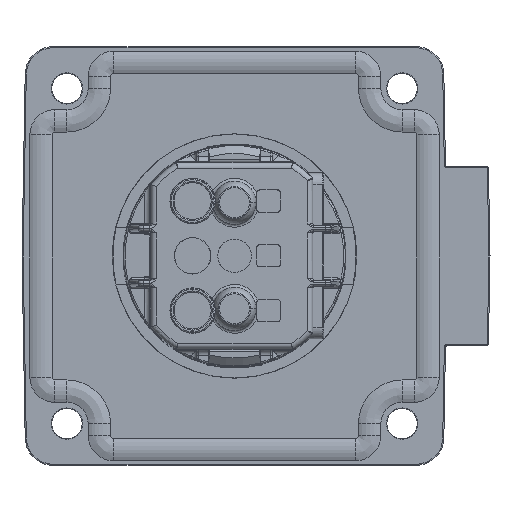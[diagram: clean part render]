
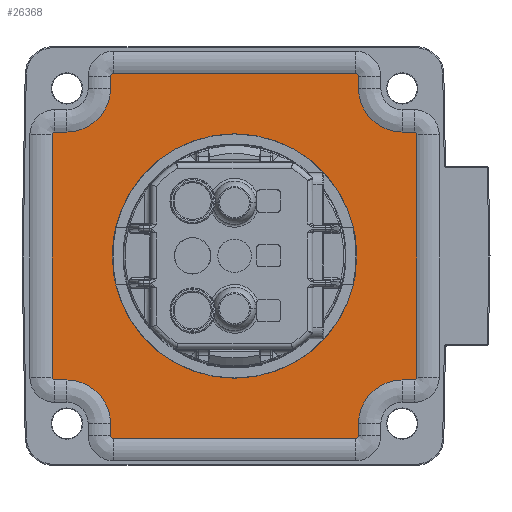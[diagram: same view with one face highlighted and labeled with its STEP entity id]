
A CAD part, top view. The second image highlights one B-rep face of the part: STEP entity #26368.
In plain terms, the highlighted planar face has unit normal (0, 0, 1).
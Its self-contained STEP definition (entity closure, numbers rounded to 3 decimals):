
#7533=DIRECTION('',(0.,1.,0.));
#7534=VECTOR('',#7533,43.4);
#7535=CARTESIAN_POINT('',(32.65,-21.7,0.95));
#7536=LINE('4611',#7535,#7534);
#7540=CARTESIAN_POINT('',(32.15,-21.7,0.95));
#7541=DIRECTION('',(0.,0.,1.));
#7542=DIRECTION('',(0.,-1.,0.));
#7543=AXIS2_PLACEMENT_3D('',#7540,#7541,#7542);
#7548=DIRECTION('',(1.,0.,0.));
#7549=VECTOR('',#7548,2.15);
#7550=CARTESIAN_POINT('',(30.,-22.2,0.95));
#7551=LINE('4644',#7550,#7549);
#7555=CARTESIAN_POINT('',(30.,-30.,0.95));
#7556=DIRECTION('',(0.,0.,-1.));
#7557=DIRECTION('',(-1.,0.,0.));
#7558=AXIS2_PLACEMENT_3D('',#7555,#7556,#7557);
#7563=DIRECTION('',(0.,1.,0.));
#7564=VECTOR('',#7563,2.15);
#7565=CARTESIAN_POINT('',(22.2,-32.15,0.95));
#7566=LINE('4642',#7565,#7564);
#7570=CARTESIAN_POINT('',(21.7,-32.15,0.95));
#7571=DIRECTION('',(0.,0.,1.));
#7572=DIRECTION('',(0.,-1.,0.));
#7573=AXIS2_PLACEMENT_3D('',#7570,#7571,#7572);
#7578=DIRECTION('',(1.,0.,0.));
#7579=VECTOR('',#7578,43.4);
#7580=CARTESIAN_POINT('',(-21.7,-32.65,0.95));
#7581=LINE('4638',#7580,#7579);
#7585=CARTESIAN_POINT('',(-21.7,-32.15,0.95));
#7586=DIRECTION('',(0.,0.,1.));
#7587=DIRECTION('',(-1.,0.,0.));
#7588=AXIS2_PLACEMENT_3D('',#7585,#7586,#7587);
#7593=DIRECTION('',(0.,-1.,0.));
#7594=VECTOR('',#7593,2.15);
#7595=CARTESIAN_POINT('',(-22.2,-30.,0.95));
#7596=LINE('4635',#7595,#7594);
#7600=CARTESIAN_POINT('',(-30.,-30.,0.95));
#7601=DIRECTION('',(0.,0.,-1.));
#7602=DIRECTION('',(0.,1.,0.));
#7603=AXIS2_PLACEMENT_3D('',#7600,#7601,#7602);
#7608=DIRECTION('',(1.,0.,0.));
#7609=VECTOR('',#7608,2.15);
#7610=CARTESIAN_POINT('',(-32.15,-22.2,0.95));
#7611=LINE('4633',#7610,#7609);
#7615=CARTESIAN_POINT('',(-32.15,-21.7,0.95));
#7616=DIRECTION('',(0.,0.,1.));
#7617=DIRECTION('',(-1.,0.,0.));
#7618=AXIS2_PLACEMENT_3D('',#7615,#7616,#7617);
#7623=DIRECTION('',(0.,-1.,0.));
#7624=VECTOR('',#7623,43.4);
#7625=CARTESIAN_POINT('',(-32.65,21.7,0.95));
#7626=LINE('4629',#7625,#7624);
#7630=CARTESIAN_POINT('',(-32.15,21.7,0.95));
#7631=DIRECTION('',(0.,0.,1.));
#7632=DIRECTION('',(0.,1.,0.));
#7633=AXIS2_PLACEMENT_3D('',#7630,#7631,#7632);
#7638=DIRECTION('',(-1.,0.,0.));
#7639=VECTOR('',#7638,2.15);
#7640=CARTESIAN_POINT('',(-30.,22.2,0.95));
#7641=LINE('4626',#7640,#7639);
#7645=CARTESIAN_POINT('',(-30.,30.,0.95));
#7646=DIRECTION('',(0.,0.,-1.));
#7647=DIRECTION('',(1.,0.,0.));
#7648=AXIS2_PLACEMENT_3D('',#7645,#7646,#7647);
#7653=DIRECTION('',(0.,-1.,0.));
#7654=VECTOR('',#7653,2.15);
#7655=CARTESIAN_POINT('',(-22.2,32.15,0.95));
#7656=LINE('4624',#7655,#7654);
#7660=CARTESIAN_POINT('',(-21.7,32.15,0.95));
#7661=DIRECTION('',(0.,0.,1.));
#7662=DIRECTION('',(0.,1.,0.));
#7663=AXIS2_PLACEMENT_3D('',#7660,#7661,#7662);
#7668=DIRECTION('',(-1.,0.,0.));
#7669=VECTOR('',#7668,43.4);
#7670=CARTESIAN_POINT('',(21.7,32.65,0.95));
#7671=LINE('4620',#7670,#7669);
#7675=CARTESIAN_POINT('',(21.7,32.15,0.95));
#7676=DIRECTION('',(0.,0.,1.));
#7677=DIRECTION('',(1.,0.,0.));
#7678=AXIS2_PLACEMENT_3D('',#7675,#7676,#7677);
#7683=DIRECTION('',(0.,1.,0.));
#7684=VECTOR('',#7683,2.15);
#7685=CARTESIAN_POINT('',(22.2,30.,0.95));
#7686=LINE('4617',#7685,#7684);
#7690=CARTESIAN_POINT('',(30.,30.,0.95));
#7691=DIRECTION('',(0.,0.,-1.));
#7692=DIRECTION('',(0.,-1.,0.));
#7693=AXIS2_PLACEMENT_3D('',#7690,#7691,#7692);
#7698=DIRECTION('',(-1.,0.,0.));
#7699=VECTOR('',#7698,2.15);
#7700=CARTESIAN_POINT('',(32.15,22.2,0.95));
#7701=LINE('4615',#7700,#7699);
#7705=CARTESIAN_POINT('',(32.15,21.7,0.95));
#7706=DIRECTION('',(0.,0.,1.));
#7707=DIRECTION('',(1.,0.,0.));
#7708=AXIS2_PLACEMENT_3D('',#7705,#7706,#7707);
#7713=CARTESIAN_POINT('',(0.,0.,0.95));
#7714=DIRECTION('',(0.,0.,1.));
#7715=DIRECTION('',(1.,0.,0.));
#7716=AXIS2_PLACEMENT_3D('',#7713,#7714,#7715);
#7721=CARTESIAN_POINT('',(0.,0.,0.95));
#7722=DIRECTION('',(0.,0.,1.));
#7723=DIRECTION('',(-1.,0.,0.));
#7724=AXIS2_PLACEMENT_3D('',#7721,#7722,#7723);
#15177=CARTESIAN_POINT('',(30.,22.2,0.95));
#15178=VERTEX_POINT('',#15177);
#15179=CARTESIAN_POINT('',(22.2,30.,0.95));
#15180=VERTEX_POINT('',#15179);
#15181=CARTESIAN_POINT('',(-22.2,30.,0.95));
#15182=VERTEX_POINT('',#15181);
#15183=CARTESIAN_POINT('',(-30.,22.2,0.95));
#15184=VERTEX_POINT('',#15183);
#15185=CARTESIAN_POINT('',(-30.,-22.2,0.95));
#15186=VERTEX_POINT('',#15185);
#15187=CARTESIAN_POINT('',(-22.2,-30.,0.95));
#15188=VERTEX_POINT('',#15187);
#15189=CARTESIAN_POINT('',(22.2,-30.,0.95));
#15190=VERTEX_POINT('',#15189);
#15191=CARTESIAN_POINT('',(30.,-22.2,0.95));
#15192=VERTEX_POINT('',#15191);
#15193=CARTESIAN_POINT('',(32.65,-21.7,0.95));
#15194=CARTESIAN_POINT('',(32.65,21.7,0.95));
#15195=VERTEX_POINT('',#15193);
#15196=VERTEX_POINT('',#15194);
#15201=CARTESIAN_POINT('',(32.15,22.2,0.95));
#15202=VERTEX_POINT('',#15201);
#15203=CARTESIAN_POINT('',(22.2,32.15,0.95));
#15204=VERTEX_POINT('',#15203);
#15207=CARTESIAN_POINT('',(21.7,32.65,0.95));
#15208=VERTEX_POINT('',#15207);
#15209=CARTESIAN_POINT('',(-21.7,32.65,0.95));
#15210=VERTEX_POINT('',#15209);
#15213=CARTESIAN_POINT('',(-22.2,32.15,0.95));
#15214=VERTEX_POINT('',#15213);
#15215=CARTESIAN_POINT('',(-32.15,22.2,0.95));
#15216=VERTEX_POINT('',#15215);
#15219=CARTESIAN_POINT('',(-32.65,21.7,0.95));
#15220=VERTEX_POINT('',#15219);
#15221=CARTESIAN_POINT('',(-32.65,-21.7,0.95));
#15222=VERTEX_POINT('',#15221);
#15225=CARTESIAN_POINT('',(-32.15,-22.2,0.95));
#15226=VERTEX_POINT('',#15225);
#15227=CARTESIAN_POINT('',(-22.2,-32.15,0.95));
#15228=VERTEX_POINT('',#15227);
#15231=CARTESIAN_POINT('',(-21.7,-32.65,0.95));
#15232=VERTEX_POINT('',#15231);
#15233=CARTESIAN_POINT('',(21.7,-32.65,0.95));
#15234=VERTEX_POINT('',#15233);
#15237=CARTESIAN_POINT('',(22.2,-32.15,0.95));
#15238=VERTEX_POINT('',#15237);
#15239=CARTESIAN_POINT('',(32.15,-22.2,0.95));
#15240=VERTEX_POINT('',#15239);
#15245=CARTESIAN_POINT('',(-21.888,0.,0.95));
#15246=VERTEX_POINT('',#15245);
#15247=CARTESIAN_POINT('',(21.888,0.,0.95));
#15248=VERTEX_POINT('',#15247);
#26308=CARTESIAN_POINT('',(0.,0.,0.95));
#26309=DIRECTION('',(0.,0.,-1.));
#26310=DIRECTION('',(1.,0.,0.));
#26311=AXIS2_PLACEMENT_3D('',#26308,#26309,#26310);
#26312=PLANE('4173',#26311);
#26314=ORIENTED_EDGE('4611',*,*,#26313,.F.);
#26316=ORIENTED_EDGE('4646',*,*,#26315,.F.);
#26318=ORIENTED_EDGE('4644',*,*,#26317,.F.);
#26320=ORIENTED_EDGE('4643',*,*,#26319,.F.);
#26322=ORIENTED_EDGE('4642',*,*,#26321,.F.);
#26324=ORIENTED_EDGE('4641',*,*,#26323,.F.);
#26326=ORIENTED_EDGE('4638',*,*,#26325,.F.);
#26328=ORIENTED_EDGE('4637',*,*,#26327,.F.);
#26330=ORIENTED_EDGE('4635',*,*,#26329,.F.);
#26332=ORIENTED_EDGE('4634',*,*,#26331,.F.);
#26334=ORIENTED_EDGE('4633',*,*,#26333,.F.);
#26336=ORIENTED_EDGE('4632',*,*,#26335,.F.);
#26338=ORIENTED_EDGE('4629',*,*,#26337,.F.);
#26340=ORIENTED_EDGE('4628',*,*,#26339,.F.);
#26342=ORIENTED_EDGE('4626',*,*,#26341,.F.);
#26344=ORIENTED_EDGE('4625',*,*,#26343,.F.);
#26346=ORIENTED_EDGE('4624',*,*,#26345,.F.);
#26348=ORIENTED_EDGE('4623',*,*,#26347,.F.);
#26350=ORIENTED_EDGE('4620',*,*,#26349,.F.);
#26352=ORIENTED_EDGE('4619',*,*,#26351,.F.);
#26354=ORIENTED_EDGE('4617',*,*,#26353,.F.);
#26356=ORIENTED_EDGE('4616',*,*,#26355,.F.);
#26358=ORIENTED_EDGE('4615',*,*,#26357,.F.);
#26360=ORIENTED_EDGE('4614',*,*,#26359,.F.);
#26361=EDGE_LOOP('4173',(#26314,#26316,#26318,#26320,#26322,#26324,#26326,
#26328,#26330,#26332,#26334,#26336,#26338,#26340,#26342,#26344,#26346,#26348,
#26350,#26352,#26354,#26356,#26358,#26360));
#26362=FACE_OUTER_BOUND('4173',#26361,.F.);
#26364=ORIENTED_EDGE('4672',*,*,#26363,.T.);
#26365=ORIENTED_EDGE('4671',*,*,#26281,.T.);
#26366=EDGE_LOOP('4173',(#26364,#26365));
#26367=FACE_BOUND('4173',#26366,.F.);
#7544=CIRCLE('4646',#7543,0.5);
#7559=CIRCLE('4643',#7558,7.8);
#7574=CIRCLE('4641',#7573,0.5);
#7589=CIRCLE('4637',#7588,0.5);
#7604=CIRCLE('4634',#7603,7.8);
#7619=CIRCLE('4632',#7618,0.5);
#7634=CIRCLE('4628',#7633,0.5);
#7649=CIRCLE('4625',#7648,7.8);
#7664=CIRCLE('4623',#7663,0.5);
#7679=CIRCLE('4619',#7678,0.5);
#7694=CIRCLE('4616',#7693,7.8);
#7709=CIRCLE('4614',#7708,0.5);
#7717=CIRCLE('4672',#7716,21.888);
#7725=CIRCLE('4671',#7724,21.888);
#26281=EDGE_CURVE('4671',#15246,#15248,#7725,.T.);
#26313=EDGE_CURVE('4611',#15195,#15196,#7536,.T.);
#26315=EDGE_CURVE('4646',#15240,#15195,#7544,.T.);
#26317=EDGE_CURVE('4644',#15192,#15240,#7551,.T.);
#26319=EDGE_CURVE('4643',#15190,#15192,#7559,.T.);
#26321=EDGE_CURVE('4642',#15238,#15190,#7566,.T.);
#26323=EDGE_CURVE('4641',#15234,#15238,#7574,.T.);
#26325=EDGE_CURVE('4638',#15232,#15234,#7581,.T.);
#26327=EDGE_CURVE('4637',#15228,#15232,#7589,.T.);
#26329=EDGE_CURVE('4635',#15188,#15228,#7596,.T.);
#26331=EDGE_CURVE('4634',#15186,#15188,#7604,.T.);
#26333=EDGE_CURVE('4633',#15226,#15186,#7611,.T.);
#26335=EDGE_CURVE('4632',#15222,#15226,#7619,.T.);
#26337=EDGE_CURVE('4629',#15220,#15222,#7626,.T.);
#26339=EDGE_CURVE('4628',#15216,#15220,#7634,.T.);
#26341=EDGE_CURVE('4626',#15184,#15216,#7641,.T.);
#26343=EDGE_CURVE('4625',#15182,#15184,#7649,.T.);
#26345=EDGE_CURVE('4624',#15214,#15182,#7656,.T.);
#26347=EDGE_CURVE('4623',#15210,#15214,#7664,.T.);
#26349=EDGE_CURVE('4620',#15208,#15210,#7671,.T.);
#26351=EDGE_CURVE('4619',#15204,#15208,#7679,.T.);
#26353=EDGE_CURVE('4617',#15180,#15204,#7686,.T.);
#26355=EDGE_CURVE('4616',#15178,#15180,#7694,.T.);
#26357=EDGE_CURVE('4615',#15202,#15178,#7701,.T.);
#26359=EDGE_CURVE('4614',#15196,#15202,#7709,.T.);
#26363=EDGE_CURVE('4672',#15248,#15246,#7717,.T.);
#26368=ADVANCED_FACE('4173',(#26362,#26367),#26312,.F.);
